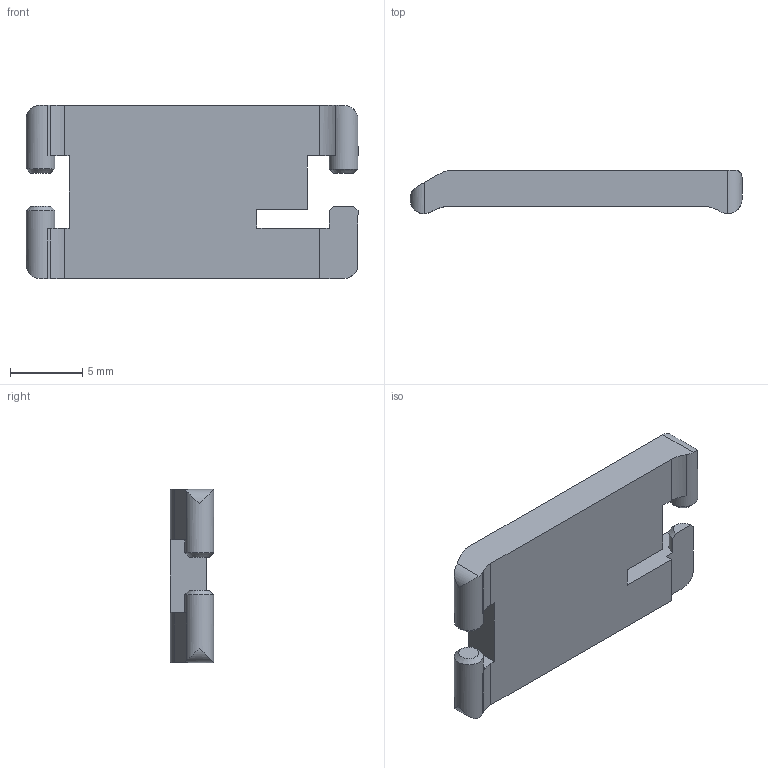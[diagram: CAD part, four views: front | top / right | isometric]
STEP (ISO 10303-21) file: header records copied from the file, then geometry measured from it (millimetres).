
FILE_DESCRIPTION((''),'2;1');
FILE_NAME('C:\Uebbing\PARAMETERKETTEN\KOLIBRI\Kol_15_051_0\Kol_15_051_0DECKEL01.stp','2011-11-02T11:06:56',('Uebbing'),(''),'Autodesk Inventor 10','Autodesk Inventor 10','');
FILE_SCHEMA(('AUTOMOTIVE_DESIGN { 1 0 10303 214 1 1 1 1 }'));
Length unit declared in the file: millimetre
Products named in the file (1): Kol_15_051_0DECKEL01
Bounding box: 23 x 3 x 12 mm (x, y, z)
Volume: 598.5 mm3; surface area: 712.1 mm2
Topology: 1 solids, 1 shells, 52 faces, 139 edges, 89 vertices
Faces by surface type: plane 32, cylinder 16, cone 4
Full cylindrical faces by diameter (mm): 2 x3
Entity records: 1630 total; most frequent: CARTESIAN_POINT 293, DIRECTION 281, ORIENTED_EDGE 268, EDGE_CURVE 134, AXIS2_PLACEMENT_3D 96, VECTOR 89, LINE 89, VERTEX_POINT 88
